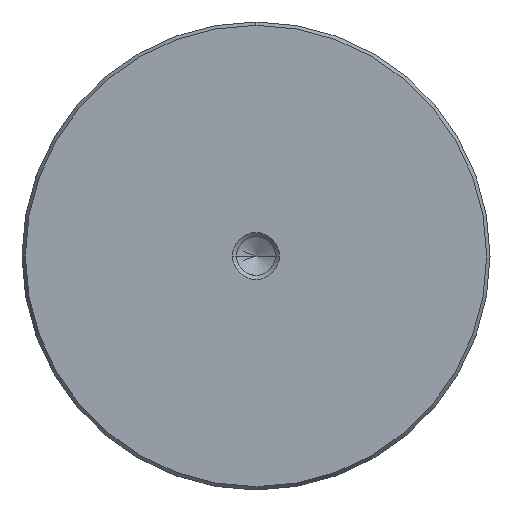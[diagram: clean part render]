
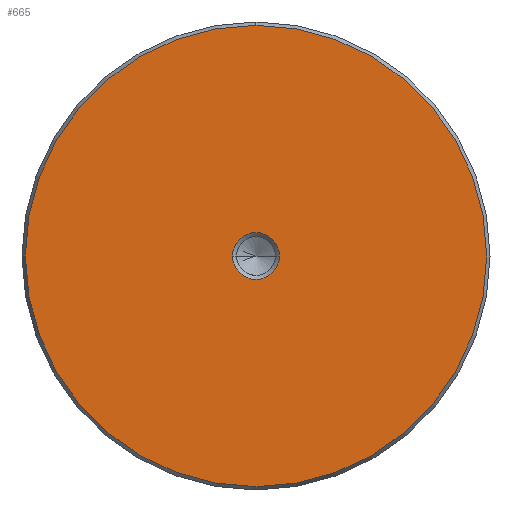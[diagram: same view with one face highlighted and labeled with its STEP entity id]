
A CAD part, left-side view. The second image highlights one B-rep face of the part: STEP entity #665.
In plain terms, the highlighted planar face has unit normal (-1, 0, 0).
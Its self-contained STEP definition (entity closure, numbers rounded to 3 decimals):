
#579=CARTESIAN_POINT('Vertex',(0.,0.,-39.423)) ;
#582=CARTESIAN_POINT('Axis2P3D Location',(0.,0.,0.)) ;
#586=CARTESIAN_POINT('Vertex',(0.,39.423,0.)) ;
#589=CARTESIAN_POINT('Axis2P3D Location',(0.,0.,0.)) ;
#593=CARTESIAN_POINT('Vertex',(0.,0.,39.423)) ;
#615=CARTESIAN_POINT('Axis2P3D Location',(0.,0.,0.)) ;
#619=CARTESIAN_POINT('Vertex',(0.,-39.423,0.)) ;
#622=CARTESIAN_POINT('Axis2P3D Location',(0.,0.,0.)) ;
#636=CARTESIAN_POINT('Axis2P3D Location',(0.,0.,0.)) ;
#647=CARTESIAN_POINT('Axis2P3D Location',(0.,0.,0.)) ;
#651=CARTESIAN_POINT('Vertex',(0.,4.,0.)) ;
#653=CARTESIAN_POINT('Vertex',(0.,-4.,0.)) ;
#656=CARTESIAN_POINT('Axis2P3D Location',(0.,0.,0.)) ;
#583=DIRECTION('Axis2P3D Direction',(1.,0.,-0.)) ;
#590=DIRECTION('Axis2P3D Direction',(1.,0.,-0.)) ;
#616=DIRECTION('Axis2P3D Direction',(1.,0.,-0.)) ;
#623=DIRECTION('Axis2P3D Direction',(1.,0.,-0.)) ;
#637=DIRECTION('Axis2P3D Direction',(1.,0.,-0.)) ;
#638=DIRECTION('Axis2P3D XDirection',(-0.,0.,-1.)) ;
#648=DIRECTION('Axis2P3D Direction',(1.,0.,-0.)) ;
#657=DIRECTION('Axis2P3D Direction',(1.,0.,-0.)) ;
#584=AXIS2_PLACEMENT_3D('Circle Axis2P3D',#582,#583,$) ;
#591=AXIS2_PLACEMENT_3D('Circle Axis2P3D',#589,#590,$) ;
#617=AXIS2_PLACEMENT_3D('Circle Axis2P3D',#615,#616,$) ;
#624=AXIS2_PLACEMENT_3D('Circle Axis2P3D',#622,#623,$) ;
#639=AXIS2_PLACEMENT_3D('Plane Axis2P3D',#636,#637,#638) ;
#649=AXIS2_PLACEMENT_3D('Circle Axis2P3D',#647,#648,$) ;
#658=AXIS2_PLACEMENT_3D('Circle Axis2P3D',#656,#657,$) ;
#642=ORIENTED_EDGE('',*,*,#588,.F.) ;
#643=ORIENTED_EDGE('',*,*,#626,.F.) ;
#644=ORIENTED_EDGE('',*,*,#621,.F.) ;
#645=ORIENTED_EDGE('',*,*,#595,.F.) ;
#662=ORIENTED_EDGE('',*,*,#655,.T.) ;
#663=ORIENTED_EDGE('',*,*,#660,.T.) ;
#664=FACE_BOUND('',#661,.T.) ;
#665=ADVANCED_FACE('720-80x355',(#646,#664),#640,.F.) ;
#585=CIRCLE('generated circle',#584,39.423) ;
#592=CIRCLE('generated circle',#591,39.423) ;
#618=CIRCLE('generated circle',#617,39.423) ;
#625=CIRCLE('generated circle',#624,39.423) ;
#650=CIRCLE('generated circle',#649,4.) ;
#659=CIRCLE('generated circle',#658,4.) ;
#588=EDGE_CURVE('',#580,#587,#585,.T.) ;
#595=EDGE_CURVE('',#587,#594,#592,.T.) ;
#621=EDGE_CURVE('',#594,#620,#618,.T.) ;
#626=EDGE_CURVE('',#620,#580,#625,.T.) ;
#655=EDGE_CURVE('',#652,#654,#650,.T.) ;
#660=EDGE_CURVE('',#654,#652,#659,.T.) ;
#641=EDGE_LOOP('',(#642,#643,#644,#645)) ;
#661=EDGE_LOOP('',(#662,#663)) ;
#646=FACE_OUTER_BOUND('',#641,.T.) ;
#640=PLANE('Plane',#639) ;
#580=VERTEX_POINT('',#579) ;
#587=VERTEX_POINT('',#586) ;
#594=VERTEX_POINT('',#593) ;
#620=VERTEX_POINT('',#619) ;
#652=VERTEX_POINT('',#651) ;
#654=VERTEX_POINT('',#653) ;
